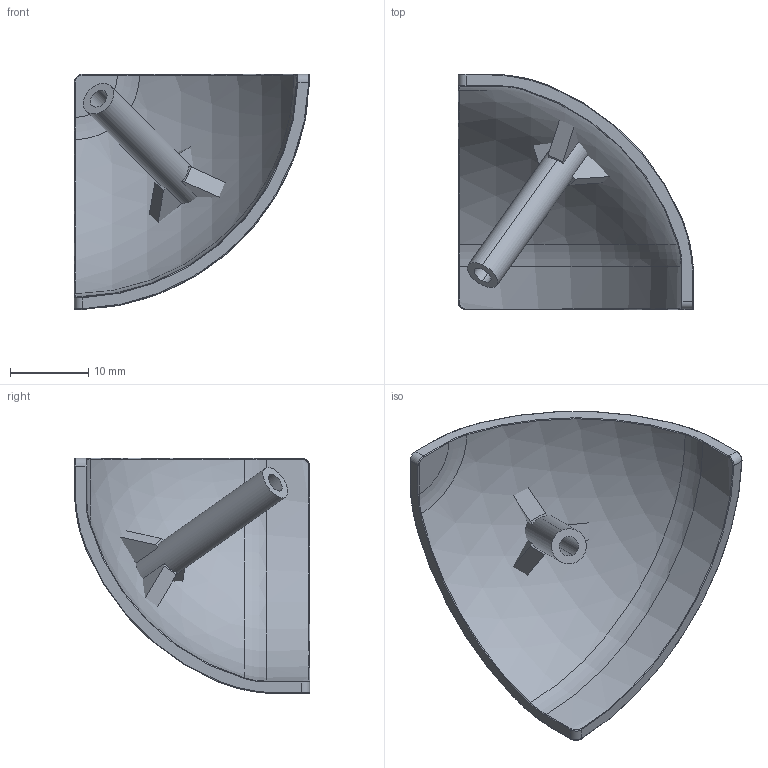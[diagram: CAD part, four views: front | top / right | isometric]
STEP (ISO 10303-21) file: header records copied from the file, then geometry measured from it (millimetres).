
FILE_DESCRIPTION (( 'STEP AP214' ), '1' );
FILE_NAME ('2013cap.STEP', '2021-05-31T11:24:45', ( 'Home' ), ( '' ), 'SwSTEP 2.0', 'SolidWorks 2020', '' );
FILE_SCHEMA (( 'AUTOMOTIVE_DESIGN' ));
Length unit declared in the file: millimetre
Products named in the file (1): 2013cap
Bounding box: 30.1 x 30.1 x 30.1 mm (x, y, z)
Volume: 2548.6 mm3; surface area: 3661.4 mm2
Topology: 2 solids, 2 shells, 63 faces, 149 edges, 90 vertices
Faces by surface type: plane 19, cylinder 18, torus 12, bspline 12, sphere 2
Entity records: 2128 total; most frequent: CARTESIAN_POINT 673, ORIENTED_EDGE 298, DIRECTION 297, EDGE_CURVE 149, AXIS2_PLACEMENT_3D 120, VERTEX_POINT 90, CIRCLE 68, EDGE_LOOP 65
